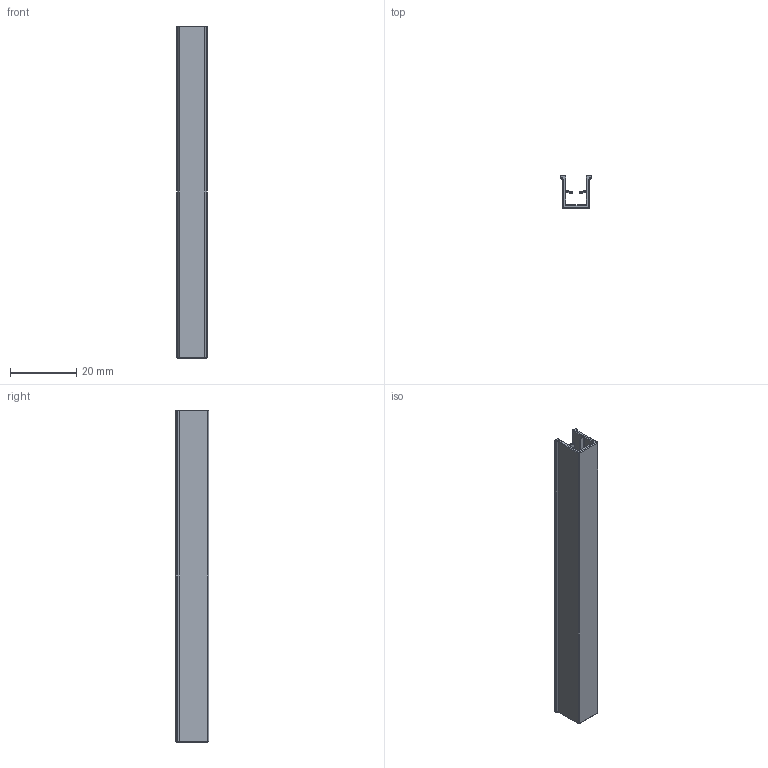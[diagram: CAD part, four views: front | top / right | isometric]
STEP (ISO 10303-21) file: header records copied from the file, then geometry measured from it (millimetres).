
FILE_DESCRIPTION (( 'STEP AP214' ), '1' );
FILE_NAME ('4044.STEP', '2015-04-29T08:36:03', ( '' ), ( '' ), 'SwSTEP 2.0', 'SolidWorks 2014', '' );
FILE_SCHEMA (( 'AUTOMOTIVE_DESIGN' ));
Length unit declared in the file: millimetre
Products named in the file (1): 4044
Bounding box: 9.2 x 10 x 100 mm (x, y, z)
Volume: 2924.5 mm3; surface area: 6325.5 mm2
Topology: 1 solids, 1 shells, 113 faces, 259 edges, 148 vertices
Faces by surface type: cylinder 54, torus 40, plane 19
Entity records: 3217 total; most frequent: DIRECTION 633, CARTESIAN_POINT 541, ORIENTED_EDGE 518, AXIS2_PLACEMENT_3D 264, EDGE_CURVE 259, CIRCLE 150, VERTEX_POINT 148, EDGE_LOOP 113
